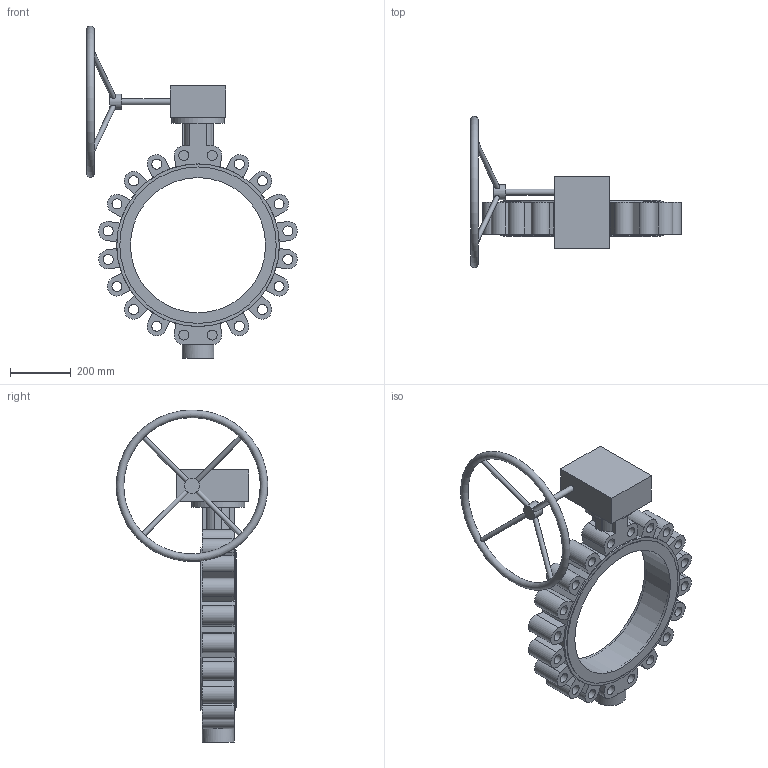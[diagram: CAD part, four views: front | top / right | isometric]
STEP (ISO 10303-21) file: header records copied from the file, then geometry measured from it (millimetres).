
FILE_DESCRIPTION (( 'STEP AP203' ), '1' );
FILE_NAME ('2502 LT型中线衬胶带销 手动头蝶阀 DN450 PN25 CD0309065.STEP', '2026-03-31T05:37:28', ( '' ), ( '' ), 'SwSTEP 2.0', 'SolidWorks 2018', '' );
FILE_SCHEMA (( 'CONFIG_CONTROL_DESIGN' ));
Length unit declared in the file: millimetre
Products named in the file (4): GALA-D450-01LC25-00; 00. G200 手动头装配图 YN 简化; GALA-D450-04AC-00; 2502 LT型中线衬胶带销 手动头蝶阀 DN450 PN25 CD0309065
Assembly tree (3 placements, depth 2):
  2502 LT型中线衬胶带销 手动头蝶阀 DN450 PN25 CD0309065
    GALA-D450-01LC25-00
    GALA-D450-04AC-00
    00. G200 手动头装配图 YN 简化
Bounding box: 695.3 x 499.69 x 1094.92 mm (x, y, z)
Volume: 26121535.5 mm3; surface area: 2020552.6 mm2
Topology: 3 solids, 4 shells, 181 faces, 440 edges, 294 vertices
Faces by surface type: plane 115, cylinder 63, torus 2, cone 1
Full cylindrical faces by diameter (mm): 16 x4, 20 x1, 33 x24, 40.381 x1, 50 x1, 105 x1, 175 x1, 445.811 x1, 451 x1, 516 x3, 536 x1
Entity records: 6270 total; most frequent: CARTESIAN_POINT 1645, DIRECTION 906, ORIENTED_EDGE 762, EDGE_CURVE 381, AXIS2_PLACEMENT_3D 348, EDGE_LOOP 294, VERTEX_POINT 279, FACE_OUTER_BOUND 218
